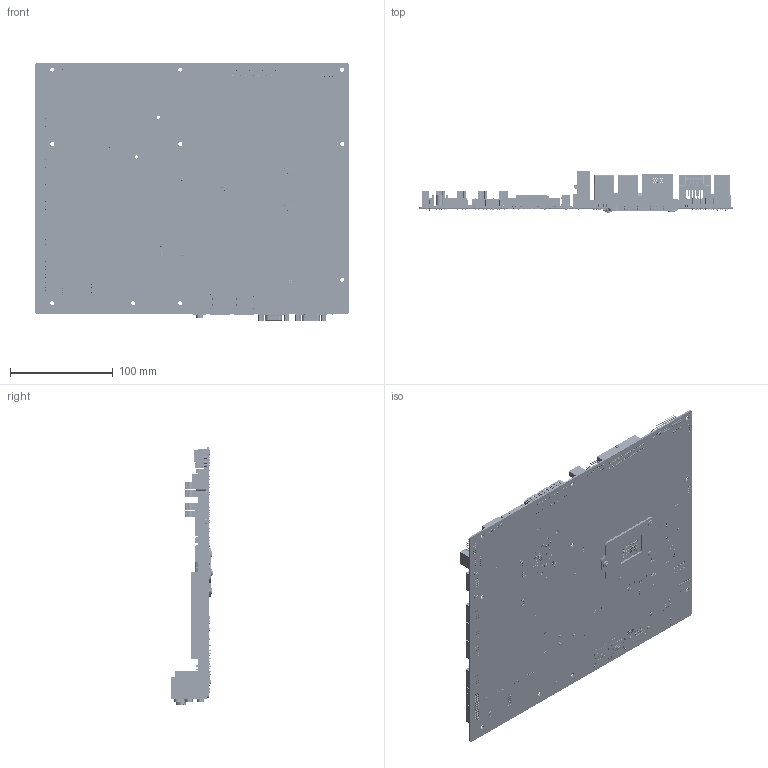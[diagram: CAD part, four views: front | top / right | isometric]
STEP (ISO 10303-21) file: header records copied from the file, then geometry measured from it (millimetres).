
FILE_DESCRIPTION((''),'2;1');
FILE_NAME('01-EAX-Q170KP-B1_ASM','2022-06-20T17:30:57',('isaac_lin'),(''),'CREO PARAMETRIC BY PTC INC, 2017260','CREO PARAMETRIC BY PTC INC, 2017260','');
FILE_SCHEMA(('CONFIG_CONTROL_DESIGN'));
Products named in the file (171): M3520D-A5XX-XXXXX_MID_-2USB; 1654010425___; D3JP-360287-00_HDMI; D3JM-360311-00_H_VGA; __-__6-261891_AF0; __-__3_2__AF0; __-__7-703697_AF0; D33N-392590-00_DP_ASM; USB-LAN_12GS1400102F04; D3JY-360095-00_AUDIO; 01_EMX-Q170P_PCB_RNM_ASM; 00_EMX-Q170P_ASM; PCIE-01; PCIE-02; MSBR-230; PCI-04; D33A-520200-00_DIMM; 1-1-SOLID6; 1-1-SOLID9; 1-1-SOLID8; 1-1-SOLID2; 1-1-SOLID5; 1-1-SOLID7; 1-1-SOLID1; 1-1-SOLID3; 1-1-SOLID4; SOK-06_ASM; 01_Q87R-CPU_MODULE_ASM; 1654009613___; PSU-12; DIE_FOR_H23400_H23399; H23400_-_KOZ; EPOXY_FOR_H23400_H23399; H23399_-_KIZ; SAF1_METAL; BS_PIN1_METAL; PIN1_METAL; IHS_SRO; IHS_METAL; SAF1_SRO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
Assembly tree (3905 placements, depth 7):
  01-EAX-Q170KP-B1_ASM
    01_EAX-Q170P_PCB_ASM
      00_EMX-Q170P_ASM
        01_EMX-Q170P_PCB_RNM_ASM
          M3520D-A5XX-XXXXX_MID_-2USB
          1654010425___
          D3JP-360287-00_HDMI
          D3JM-360311-00_H_VGA
          D33N-392590-00_DP_ASM
            __-__6-261891_AF0
            __-__3_2__AF0
            __-__7-703697_AF0
          USB-LAN_12GS1400102F04  x2
          D3JY-360095-00_AUDIO
      PCIE-01
      PCIE-02
      MSBR-230
      PCI-04  x4
      D33A-520200-00_DIMM  x4
      01_Q87R-CPU_MODULE_ASM
        SOK-06_ASM
          1-1-SOLID6
          1-1-SOLID9
          1-1-SOLID8
          1-1-SOLID2
          1-1-SOLID5
          1-1-SOLID7
          1-1-SOLID1
          1-1-SOLID3
          1-1-SOLID4
      1654009613___  x6
      PSU-12
      H23400_REV_09_FINAL_ASM
        DIE_FOR_H23400_H23399
        H23400_-_KOZ
        EPOXY_FOR_H23400_H23399
        H23399_-_KIZ
        H23398_-004_ASM
          H23398_-_SUBSTRATE_-004_ASM
            SAF1_METAL
            BS_PIN1_METAL
            PIN1_METAL
            IHS_SRO
            IHS_METAL
            SAF1_SRO
            SAF2_METAL
            PIN1_SRO
            SAF2_SRO
            SUBSTRATE
            BS_PIN1_SRO
          H23398_-_BGA_LAND_ASSY_ASM
            H23398_-_BGA_LAND_ASM  x837
              BS_BGALAND_SRO
              BS_BGALAND_METAL
        H23399_-_BGA_PATTERN_ASM
          H23399_-_BGA_BALL  x837
      M_2SOCKET_APCI0094_DRAW
      E1654252132H
      N2JT-391755-00_SIM
      N3DH-360757-00_PCH_SINK
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Bounding box: 304.8 x 41.1 x 250.75 mm (x, y, z)
Volume: 303113.8 mm3; surface area: 339538.3 mm2
Topology: 4749 solids, 4818 shells, 40823 faces, 146304 edges, 154058 vertices
Faces by surface type: plane 31705, cylinder 6769, sphere 1702, cone 321, extrusion 134, torus 107, bspline 85
Entity records: 745120 total; most frequent: DIRECTION 151272, CARTESIAN_POINT 146397, ORIENTED_EDGE 65612, VECTOR 61446, LINE 61416, TRIMMED_CURVE 54110, AXIS2_PLACEMENT_3D 44913, EDGE_CURVE 32957
